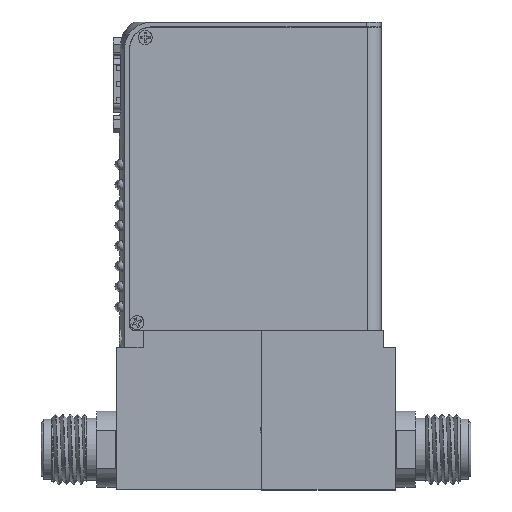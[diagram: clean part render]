
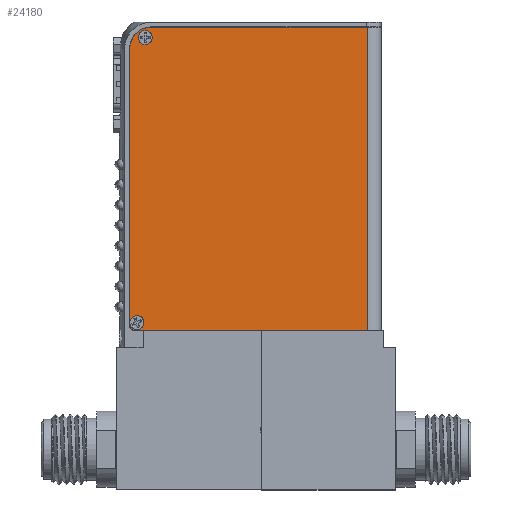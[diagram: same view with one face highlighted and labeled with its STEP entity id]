
A CAD part, top view. The second image highlights one B-rep face of the part: STEP entity #24180.
In plain terms, the highlighted planar face has unit normal (0, 0, 1).
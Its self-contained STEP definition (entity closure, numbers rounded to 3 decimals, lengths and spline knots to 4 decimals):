
#117 = DIRECTION ( 'NONE',  ( 0., -1., 0. ) ) ;
#318 = VERTEX_POINT ( 'NONE', #940 ) ;
#940 = CARTESIAN_POINT ( 'NONE',  ( 1.3666, 1.957, 0.56 ) ) ;
#1366 = VERTEX_POINT ( 'NONE', #45258 ) ;
#1471 = EDGE_LOOP ( 'NONE', ( #36188, #34176 ) ) ;
#2454 = EDGE_CURVE ( 'NONE', #21501, #36479, #18820, .T. ) ;
#3107 = FACE_OUTER_BOUND ( 'NONE', #32820, .T. ) ;
#5502 = AXIS2_PLACEMENT_3D ( 'NONE', #19748, #17368, #45040 ) ;
#5973 = VERTEX_POINT ( 'NONE', #15526 ) ;
#6991 = CARTESIAN_POINT ( 'NONE',  ( -1.2824, 5.688, 0.56 ) ) ;
#7296 = DIRECTION ( 'NONE',  ( 0., 0., -1. ) ) ;
#7579 = EDGE_CURVE ( 'NONE', #36479, #318, #25896, .T. ) ;
#8314 = AXIS2_PLACEMENT_3D ( 'NONE', #37304, #41499, #26527 ) ;
#8363 = VERTEX_POINT ( 'NONE', #29499 ) ;
#8427 = EDGE_CURVE ( 'NONE', #42691, #16149, #38010, .T. ) ;
#9485 = AXIS2_PLACEMENT_3D ( 'NONE', #16866, #23443, #37745 ) ;
#10203 = CARTESIAN_POINT ( 'NONE',  ( -1.4644, 2.055, 0.56 ) ) ;
#10621 = CARTESIAN_POINT ( 'NONE',  ( -1.4894, 2.02, 0.56 ) ) ;
#10986 = VECTOR ( 'NONE', #117, 39.3701 ) ;
#11402 = ORIENTED_EDGE ( 'NONE', *, *, #2454, .F. ) ;
#12489 = VECTOR ( 'NONE', #36933, 39.3701 ) ;
#12525 = ORIENTED_EDGE ( 'NONE', *, *, #31154, .T. ) ;
#13062 = DIRECTION ( 'NONE',  ( 0., -1., 0. ) ) ;
#13662 = ORIENTED_EDGE ( 'NONE', *, *, #21134, .T. ) ;
#13675 = CIRCLE ( 'NONE', #19676, 0.086 ) ;
#14301 = CIRCLE ( 'NONE', #8314, 0.27 ) ;
#15526 = CARTESIAN_POINT ( 'NONE',  ( -1.5524, 5.418, 0.56 ) ) ;
#15582 = CARTESIAN_POINT ( 'NONE',  ( 1.3666, 5.688, 0.56 ) ) ;
#16149 = VERTEX_POINT ( 'NONE', #34865 ) ;
#16412 = EDGE_CURVE ( 'NONE', #16149, #42691, #43171, .T. ) ;
#16866 = CARTESIAN_POINT ( 'NONE',  ( -1.3624, 5.559, 0.56 ) ) ;
#17368 = DIRECTION ( 'NONE',  ( 0., 0., 1. ) ) ;
#17477 = DIRECTION ( 'NONE',  ( 0., -1., 0. ) ) ;
#17754 = CARTESIAN_POINT ( 'NONE',  ( -1.4894, 1.957, 0.56 ) ) ;
#18575 = EDGE_LOOP ( 'NONE', ( #25429, #42680 ) ) ;
#18820 = LINE ( 'NONE', #29386, #39064 ) ;
#19676 = AXIS2_PLACEMENT_3D ( 'NONE', #10203, #21001, #17477 ) ;
#19748 = CARTESIAN_POINT ( 'NONE',  ( -1.4644, 2.055, 0.56 ) ) ;
#21001 = DIRECTION ( 'NONE',  ( 0., 0., 1. ) ) ;
#21134 = EDGE_CURVE ( 'NONE', #1366, #32225, #32471, .T. ) ;
#21501 = VERTEX_POINT ( 'NONE', #6991 ) ;
#21979 = EDGE_CURVE ( 'NONE', #33950, #8363, #13675, .T. ) ;
#22656 = EDGE_CURVE ( 'NONE', #8363, #33950, #25693, .T. ) ;
#22780 = CARTESIAN_POINT ( 'NONE',  ( 1.3666, 5.688, 0.56 ) ) ;
#23369 = CARTESIAN_POINT ( 'NONE',  ( -1.3624, 5.559, 0.56 ) ) ;
#23443 = DIRECTION ( 'NONE',  ( 0., 0., 1. ) ) ;
#23655 = LINE ( 'NONE', #41927, #36809 ) ;
#24180 = ADVANCED_FACE ( 'NONE', ( #3107, #38711, #42224 ), #35673, .F. ) ;
#24214 = AXIS2_PLACEMENT_3D ( 'NONE', #10621, #26266, #39214 ) ;
#24268 = LINE ( 'NONE', #31330, #10986 ) ;
#25241 = AXIS2_PLACEMENT_3D ( 'NONE', #42685, #7296, #45957 ) ;
#25429 = ORIENTED_EDGE ( 'NONE', *, *, #16412, .F. ) ;
#25693 = CIRCLE ( 'NONE', #5502, 0.086 ) ;
#25896 = LINE ( 'NONE', #15582, #12489 ) ;
#26266 = DIRECTION ( 'NONE',  ( 0., 0., 1. ) ) ;
#26527 = DIRECTION ( 'NONE',  ( -1., 0., 0. ) ) ;
#26661 = DIRECTION ( 'NONE',  ( 0., 0., 1. ) ) ;
#28850 = ORIENTED_EDGE ( 'NONE', *, *, #42011, .T. ) ;
#29386 = CARTESIAN_POINT ( 'NONE',  ( 1.3666, 5.688, 0.56 ) ) ;
#29499 = CARTESIAN_POINT ( 'NONE',  ( -1.4644, 2.141, 0.56 ) ) ;
#30333 = CARTESIAN_POINT ( 'NONE',  ( -1.4644, 1.969, 0.56 ) ) ;
#31154 = EDGE_CURVE ( 'NONE', #5973, #1366, #24268, .T. ) ;
#31330 = CARTESIAN_POINT ( 'NONE',  ( -1.5524, 5.688, 0.56 ) ) ;
#31405 = DIRECTION ( 'NONE',  ( 1., 0., 0. ) ) ;
#32225 = VERTEX_POINT ( 'NONE', #17754 ) ;
#32471 = CIRCLE ( 'NONE', #24214, 0.063 ) ;
#32820 = EDGE_LOOP ( 'NONE', ( #12525, #13662, #40017, #35512, #11402, #28850 ) ) ;
#33866 = CARTESIAN_POINT ( 'NONE',  ( -1.3624, 5.645, 0.56 ) ) ;
#33950 = VERTEX_POINT ( 'NONE', #30333 ) ;
#34176 = ORIENTED_EDGE ( 'NONE', *, *, #22656, .F. ) ;
#34865 = CARTESIAN_POINT ( 'NONE',  ( -1.3624, 5.473, 0.56 ) ) ;
#35512 = ORIENTED_EDGE ( 'NONE', *, *, #7579, .F. ) ;
#35673 = PLANE ( 'NONE',  #25241 ) ;
#36188 = ORIENTED_EDGE ( 'NONE', *, *, #21979, .F. ) ;
#36479 = VERTEX_POINT ( 'NONE', #22780 ) ;
#36809 = VECTOR ( 'NONE', #31405, 39.3701 ) ;
#36933 = DIRECTION ( 'NONE',  ( 0., -1., 0. ) ) ;
#37304 = CARTESIAN_POINT ( 'NONE',  ( -1.2824, 5.418, 0.56 ) ) ;
#37745 = DIRECTION ( 'NONE',  ( 0., -1., 0. ) ) ;
#38010 = CIRCLE ( 'NONE', #45432, 0.086 ) ;
#38711 = FACE_BOUND ( 'NONE', #18575, .T. ) ;
#39064 = VECTOR ( 'NONE', #40827, 39.3701 ) ;
#39214 = DIRECTION ( 'NONE',  ( -1., 0., 0. ) ) ;
#40017 = ORIENTED_EDGE ( 'NONE', *, *, #40327, .T. ) ;
#40327 = EDGE_CURVE ( 'NONE', #32225, #318, #23655, .T. ) ;
#40827 = DIRECTION ( 'NONE',  ( 1., 0., 0. ) ) ;
#41499 = DIRECTION ( 'NONE',  ( 0., 0., 1. ) ) ;
#41927 = CARTESIAN_POINT ( 'NONE',  ( 1.3666, 1.957, 0.56 ) ) ;
#42011 = EDGE_CURVE ( 'NONE', #21501, #5973, #14301, .T. ) ;
#42224 = FACE_BOUND ( 'NONE', #1471, .T. ) ;
#42680 = ORIENTED_EDGE ( 'NONE', *, *, #8427, .F. ) ;
#42685 = CARTESIAN_POINT ( 'NONE',  ( 1.3666, 5.688, 0.56 ) ) ;
#42691 = VERTEX_POINT ( 'NONE', #33866 ) ;
#43171 = CIRCLE ( 'NONE', #9485, 0.086 ) ;
#45040 = DIRECTION ( 'NONE',  ( 0., -1., 0. ) ) ;
#45258 = CARTESIAN_POINT ( 'NONE',  ( -1.5524, 2.02, 0.56 ) ) ;
#45432 = AXIS2_PLACEMENT_3D ( 'NONE', #23369, #26661, #13062 ) ;
#45957 = DIRECTION ( 'NONE',  ( -1., 0., 0. ) ) ;
